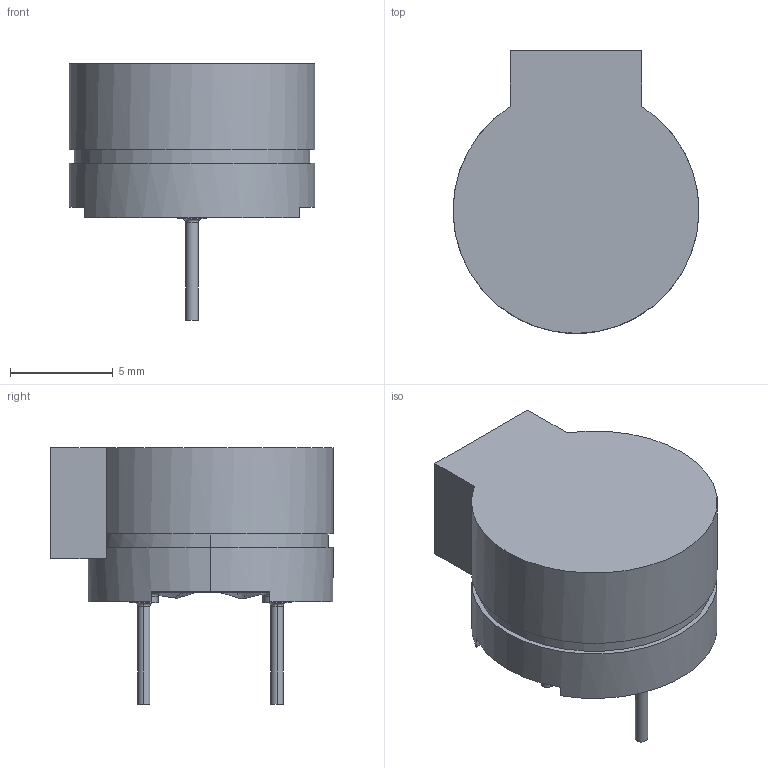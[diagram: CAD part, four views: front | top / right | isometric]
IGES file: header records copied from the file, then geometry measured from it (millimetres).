
Global section: file name: No Iges File Name specified; native system: AutoDesk Inventor R12.0; preprocessor: AutoDesk Inventor Iges Exporter R12.0; date: 20090223.145425; units: millimetre
Bounding box: 12 x 13.8 x 12.5 mm (x, y, z)
Volume: 587.8 mm3; surface area: 1400.5 mm2
Topology: 3 solids, 3 shells, 192 faces, 489 edges, 303 vertices
Faces by surface type: plane 110, cylinder 33, revolution 23, bspline 18, sphere 5, cone 3
